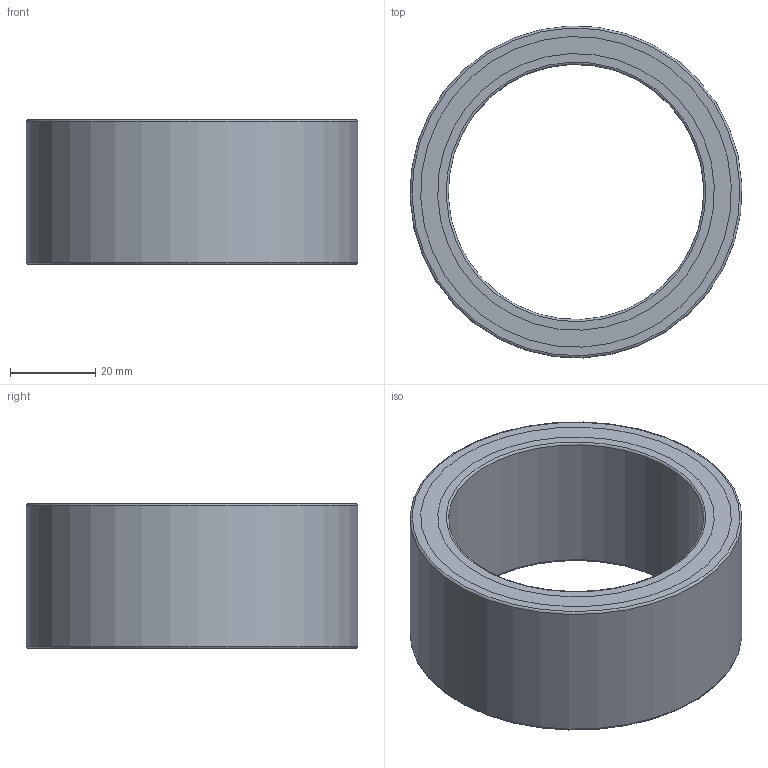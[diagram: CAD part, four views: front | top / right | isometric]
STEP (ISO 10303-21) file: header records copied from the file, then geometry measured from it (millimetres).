
FILE_DESCRIPTION(/* description */ (''),/* implementation_level */ '2;1');
FILE_NAME(/* name */ '306536 FPD 473 M.stp',/* time_stamp */ '2016-11-17T10:51:59+01:00',/* author */ (''),/* organization */ (''),/* preprocessor_version */ 'ST-DEVELOPER v15',/* originating_system */ 'SIEMENS PLM Software NX 8.5',/* authorisation */ '');
FILE_SCHEMA (('CONFIG_CONTROL_DESIGN'));
Length unit declared in the file: millimetre
Products named in the file (3): ATE0000080_01; ATE0000078_01; ATE0000090_01
Assembly tree (2 placements, depth 2):
  ATE0000090_01
    ATE0000078_01
    ATE0000080_01
Bounding box: 77.92 x 77.92 x 34 mm (x, y, z)
Volume: 55028.8 mm3; surface area: 49393.9 mm2
Topology: 5 solids, 5 shells, 76 faces, 162 edges, 106 vertices
Faces by surface type: plane 46, cylinder 24, torus 6
Full cylindrical faces by diameter (mm): 60 x1, 65 x5, 69 x1, 71 x1, 72 x2, 73 x5, 78 x1
Entity records: 2212 total; most frequent: DIRECTION 358, CARTESIAN_POINT 311, ORIENTED_EDGE 264, AXIS2_PLACEMENT_3D 147, EDGE_CURVE 132, EDGE_LOOP 120, VERTEX_POINT 100, FACE_BOUND 80
